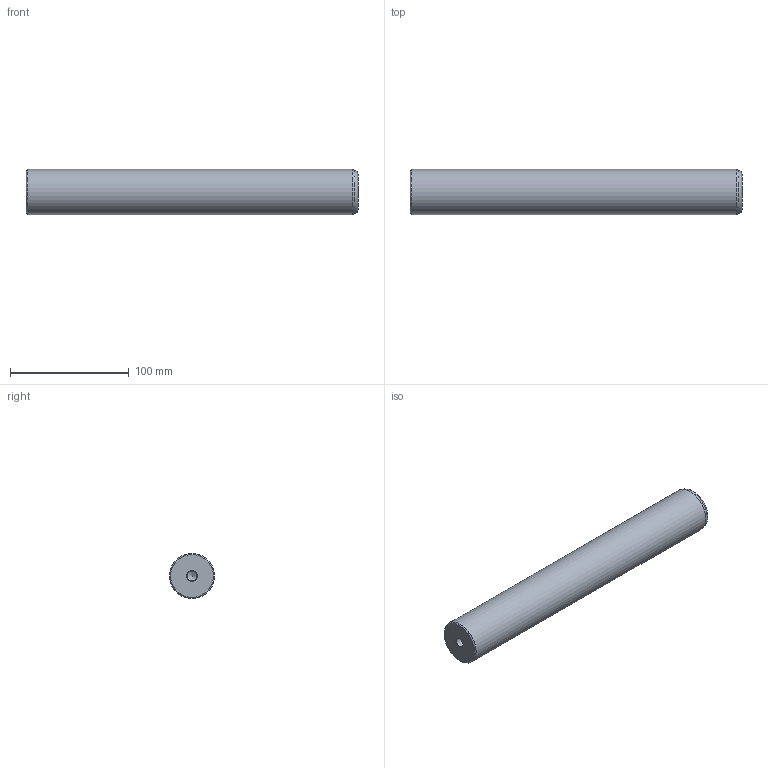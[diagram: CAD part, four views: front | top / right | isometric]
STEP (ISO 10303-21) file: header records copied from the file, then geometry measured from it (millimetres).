
FILE_DESCRIPTION(/* description */ ('Impex Ready, www.impex-ready.pl'),/* implementation_level */ '2;1');
FILE_NAME(/* name */ 'C:\Users\VIKKY\Nextcloud\SM\projekt 10 - części na stronę internetową\Pliki_3D_new\258 CIAF Słup\258 CIAF_STEP\CIAF38280.ipt.step',/* time_stamp */ '2021-12-20T13:00:09+01:00',/* author */ ('SM'),/* organization */ (''),/* preprocessor_version */ 'ST-DEVELOPER v18.1',/* originating_system */ 'Autodesk Inventor 2021',/* authorisation */ '');
FILE_SCHEMA (('AUTOMOTIVE_DESIGN { 1 0 10303 214 3 1 1 }'));
Length unit declared in the file: millimetre
Products named in the file (1): CIAF38280
Bounding box: 280 x 38 x 38 mm (x, y, z)
Volume: 314388.3 mm3; surface area: 36562.8 mm2
Topology: 1 solids, 1 shells, 12 faces, 24 edges, 14 vertices
Faces by surface type: cone 6, cylinder 3, plane 2, torus 1
Full cylindrical faces by diameter (mm): 8 x2, 38 x1
Entity records: 374 total; most frequent: DIRECTION 61, CARTESIAN_POINT 49, ORIENTED_EDGE 44, AXIS2_PLACEMENT_3D 26, EDGE_CURVE 22, EDGE_LOOP 14, VERTEX_POINT 14, CIRCLE 13
